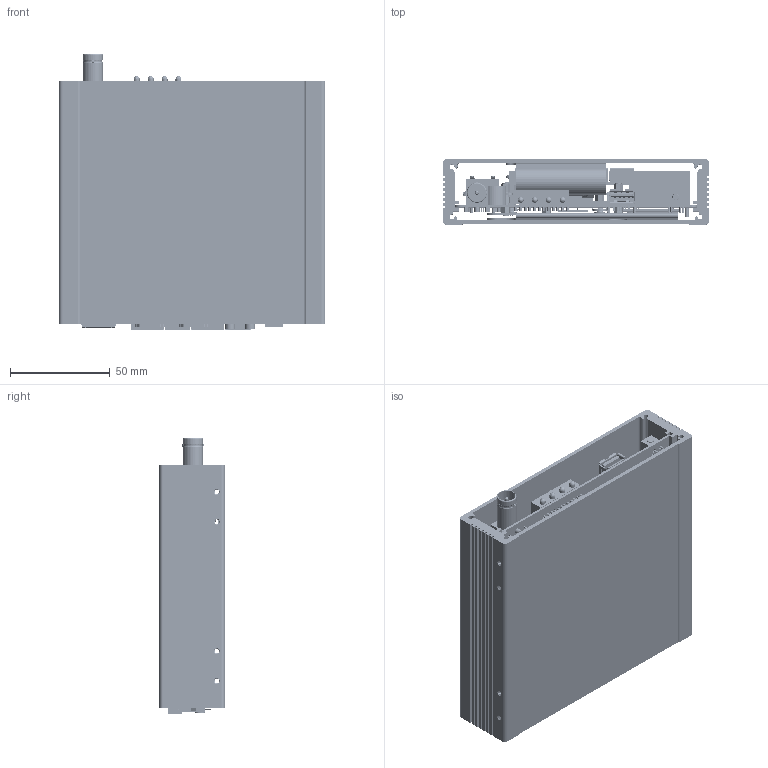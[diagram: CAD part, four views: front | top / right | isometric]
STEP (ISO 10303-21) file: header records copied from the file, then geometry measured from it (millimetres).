
FILE_DESCRIPTION((''),'2;1');
FILE_NAME('220414_TCS_9500-1700_ASY_ASM','2022-11-14T10:37:03',('user'),(''),'CREO PARAMETRIC BY PTC INC, 2021404','CREO PARAMETRIC BY PTC INC, 2021404','');
FILE_SCHEMA(('CONFIG_CONTROL_DESIGN','SHAPE_APPEARANCE_LAYERS_GROUPS'));
Products named in the file (13): 220414_TCS_9500_MAIN_PCB; STUD-10H_SPACE; 220426_TCS_S6U_BD; SCREW_SEMS-PH_M3-8H; 221107_9500_THERMAL_PAD-B; 221107_9500_THERMAL_PAD-A; SUPPORT-3H; SUPPORT-5H; 221109_9500_POE_HEAT_SINK_B; 221109_9500_SOC_HEAT_SINK_A_P; SUPPORT_SPACE_5-5H; SCREW_CH-M2-3; 220414_TCS_9500-1700_ASY_ASM
Assembly tree (24 placements, depth 2):
  220414_TCS_9500-1700_ASY_ASM
    220414_TCS_9500_MAIN_PCB
    STUD-10H_SPACE  x2
    220426_TCS_S6U_BD
    SCREW_SEMS-PH_M3-8H  x4
    221107_9500_THERMAL_PAD-B
    221107_9500_THERMAL_PAD-A
    SUPPORT-3H  x3
    SUPPORT-5H  x3
    221109_9500_POE_HEAT_SINK_B
    221109_9500_SOC_HEAT_SINK_A_P
    SUPPORT_SPACE_5-5H  x3
    SCREW_CH-M2-3  x3
Bounding box: 134 x 33 x 138.72 mm (x, y, z)
Volume: 90595.2 mm3; surface area: 517020.5 mm2
Topology: 74 solids, 97 shells, 8102 faces, 22157 edges, 14462 vertices
Faces by surface type: plane 3382, cylinder 2789, bspline 987, extrusion 604, cone 232, torus 82, sphere 26
Entity records: 394833 total; most frequent: CARTESIAN_POINT 177894, ORIENTED_EDGE 40278, DIRECTION 31097, EDGE_CURVE 20139, VERTEX_POINT 13186, VECTOR 11493, LINE 10889, AXIS2_PLACEMENT_3D 9802
